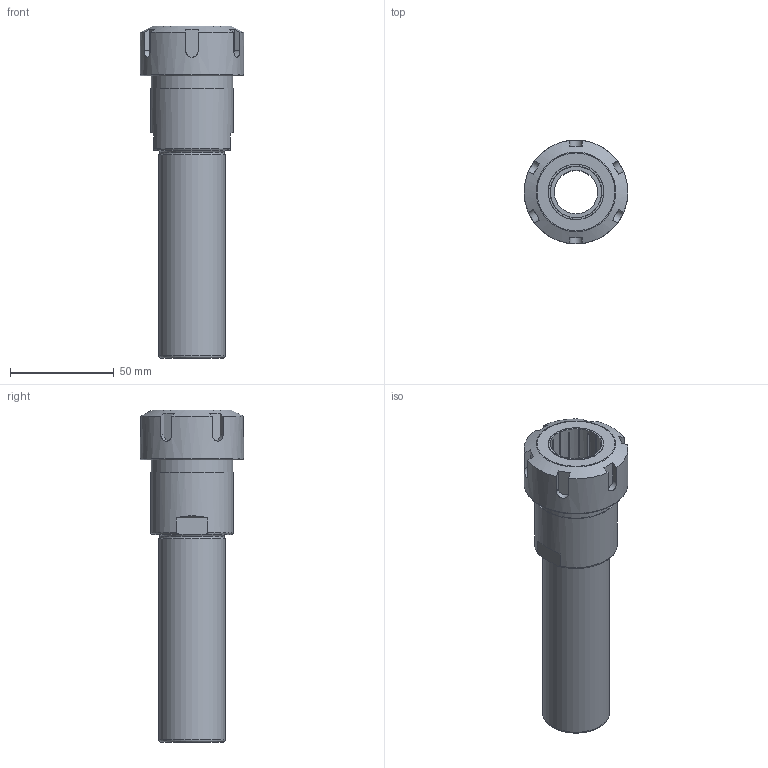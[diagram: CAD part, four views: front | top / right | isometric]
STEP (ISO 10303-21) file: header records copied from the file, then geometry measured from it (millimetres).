
FILE_DESCRIPTION(/* description */ (''),/* implementation_level */ '2;1');
FILE_NAME(/* name */ 'C32-ER32.stp',/* time_stamp */ '2025-08-20T11:11:11+03:00',/* author */ ('User'),/* organization */ (''),/* preprocessor_version */ 'ST-DEVELOPER v19.2',/* originating_system */ 'Autodesk Inventor 2024',/* authorisation */ '');
FILE_SCHEMA (('AUTOMOTIVE_DESIGN { 1 0 10303 214 3 1 1 }'));
Length unit declared in the file: millimetre
Products named in the file (4): MTA4-ER32; MT5-22; ER25-M; Цанга ER20 4 mm
Assembly tree (3 placements, depth 2):
  MTA4-ER32
    MT5-22
    ER25-M
    Цанга ER20 4 mm
Bounding box: 50 x 50 x 160 mm (x, y, z)
Volume: 103490.7 mm3; surface area: 45388.1 mm2
Topology: 3 solids, 3 shells, 188 faces, 536 edges, 358 vertices
Faces by surface type: plane 128, cylinder 33, cone 20, torus 7
Full cylindrical faces by diameter (mm): 21 x1, 24.692 x1, 25 x1, 31 x2, 32 x1, 38.5 x2, 39.5 x1, 40 x1, 50 x1
Entity records: 6436 total; most frequent: CARTESIAN_POINT 1407, ORIENTED_EDGE 1072, DIRECTION 1013, EDGE_CURVE 536, AXIS2_PLACEMENT_3D 381, VERTEX_POINT 358, LINE 251, VECTOR 251
